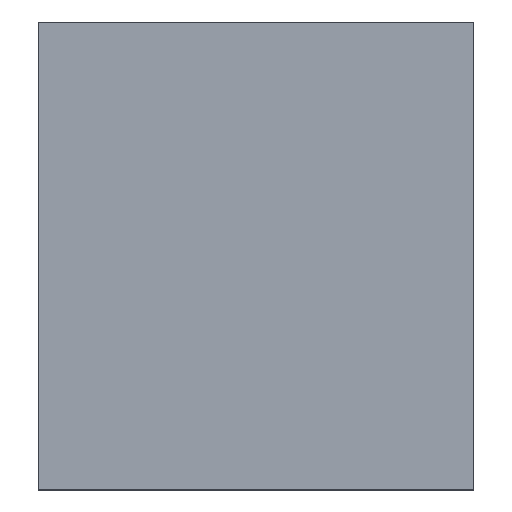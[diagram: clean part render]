
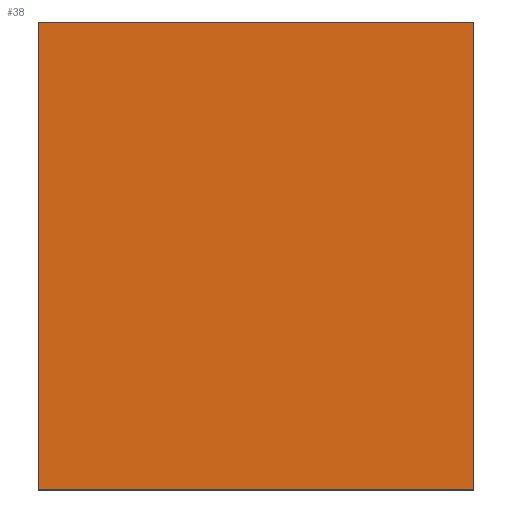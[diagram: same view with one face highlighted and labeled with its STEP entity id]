
A CAD part, top view. The second image highlights one B-rep face of the part: STEP entity #38.
In plain terms, the highlighted planar face has unit normal (0, 0, 1).
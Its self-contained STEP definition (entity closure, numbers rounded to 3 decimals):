
#38=ADVANCED_FACE('',(#50),#44,.F.);
#44=PLANE('',#131);
#50=FACE_OUTER_BOUND('',#56,.T.);
#56=EDGE_LOOP('',(#74,#75,#76,#77));
#74=ORIENTED_EDGE('',*,*,#92,.F.);
#75=ORIENTED_EDGE('',*,*,#101,.F.);
#76=ORIENTED_EDGE('',*,*,#98,.F.);
#77=ORIENTED_EDGE('',*,*,#95,.F.);
#84=VERTEX_POINT('',#164);
#85=VERTEX_POINT('',#166);
#87=VERTEX_POINT('',#172);
#89=VERTEX_POINT('',#178);
#92=EDGE_CURVE('',#84,#85,#104,.T.);
#95=EDGE_CURVE('',#85,#87,#107,.T.);
#98=EDGE_CURVE('',#87,#89,#110,.T.);
#101=EDGE_CURVE('',#89,#84,#113,.T.);
#104=LINE('',#165,#116);
#107=LINE('',#171,#119);
#110=LINE('',#177,#122);
#113=LINE('',#182,#125);
#116=VECTOR('',#137,1.);
#119=VECTOR('',#142,1.);
#122=VECTOR('',#147,1.);
#125=VECTOR('',#152,1.);
#131=AXIS2_PLACEMENT_3D('',#184,#155,#156);
#137=DIRECTION('',(0.,1.,0.));
#142=DIRECTION('',(1.,0.,0.));
#147=DIRECTION('',(0.,-1.,0.));
#152=DIRECTION('',(-1.,0.,0.));
#155=DIRECTION('',(0.,0.,-1.));
#156=DIRECTION('',(-1.,0.,0.));
#164=CARTESIAN_POINT('',(-80.,-86.,13.));
#165=CARTESIAN_POINT('',(-80.,-86.,13.));
#166=CARTESIAN_POINT('',(-80.,86.,13.));
#171=CARTESIAN_POINT('',(-80.,86.,13.));
#172=CARTESIAN_POINT('',(80.,86.,13.));
#177=CARTESIAN_POINT('',(80.,86.,13.));
#178=CARTESIAN_POINT('',(80.,-86.,13.));
#182=CARTESIAN_POINT('',(80.,-86.,13.));
#184=CARTESIAN_POINT('',(0.,0.,13.));
